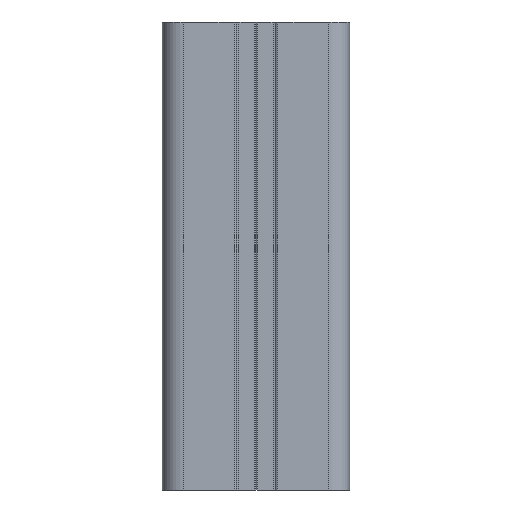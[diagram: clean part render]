
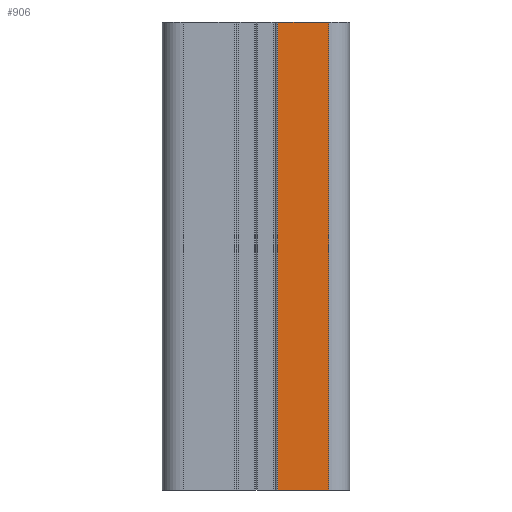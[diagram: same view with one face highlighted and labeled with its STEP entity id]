
A CAD part, front view. The second image highlights one B-rep face of the part: STEP entity #906.
In plain terms, the highlighted planar face has unit normal (0, -1, 0).
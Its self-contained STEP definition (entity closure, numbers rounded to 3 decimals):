
#17 = VERTEX_POINT ( 'NONE', #126 ) ;
#25 = CARTESIAN_POINT ( 'NONE',  ( 15.5, -20., 0. ) ) ;
#87 = PLANE ( 'NONE',  #4227 ) ;
#126 = CARTESIAN_POINT ( 'NONE',  ( 15.5, -20., -100. ) ) ;
#201 = ORIENTED_EDGE ( 'NONE', *, *, #2942, .T. ) ;
#289 = FACE_OUTER_BOUND ( 'NONE', #1575, .T. ) ;
#407 = VERTEX_POINT ( 'NONE', #25 ) ;
#472 = CARTESIAN_POINT ( 'NONE',  ( 20., -20., -100. ) ) ;
#623 = ORIENTED_EDGE ( 'NONE', *, *, #4682, .T. ) ;
#674 = VERTEX_POINT ( 'NONE', #3790 ) ;
#868 = DIRECTION ( 'NONE',  ( 0., -1., 0. ) ) ;
#884 = CARTESIAN_POINT ( 'NONE',  ( 4.65, -20., -100. ) ) ;
#906 = ADVANCED_FACE ( 'NONE', ( #289 ), #87, .T. ) ;
#1217 = EDGE_CURVE ( 'NONE', #17, #407, #3537, .T. ) ;
#1338 = DIRECTION ( 'NONE',  ( 0., 0., 1. ) ) ;
#1341 = LINE ( 'NONE', #1662, #3156 ) ;
#1443 = ORIENTED_EDGE ( 'NONE', *, *, #1217, .T. ) ;
#1483 = VERTEX_POINT ( 'NONE', #4020 ) ;
#1516 = EDGE_CURVE ( 'NONE', #674, #407, #1841, .T. ) ;
#1575 = EDGE_LOOP ( 'NONE', ( #2917, #623, #201, #1443 ) ) ;
#1662 = CARTESIAN_POINT ( 'NONE',  ( 20., -20., -100. ) ) ;
#1742 = VECTOR ( 'NONE', #4732, 1000. ) ;
#1830 = LINE ( 'NONE', #884, #2808 ) ;
#1841 = LINE ( 'NONE', #4368, #1742 ) ;
#2808 = VECTOR ( 'NONE', #3099, 1000. ) ;
#2917 = ORIENTED_EDGE ( 'NONE', *, *, #1516, .F. ) ;
#2942 = EDGE_CURVE ( 'NONE', #1483, #17, #1341, .T. ) ;
#3099 = DIRECTION ( 'NONE',  ( 0., 0., -1. ) ) ;
#3156 = VECTOR ( 'NONE', #4178, 1000. ) ;
#3351 = CARTESIAN_POINT ( 'NONE',  ( 15.5, -20., -100. ) ) ;
#3418 = VECTOR ( 'NONE', #1338, 1000. ) ;
#3436 = DIRECTION ( 'NONE',  ( 1., 0., 0. ) ) ;
#3537 = LINE ( 'NONE', #3351, #3418 ) ;
#3790 = CARTESIAN_POINT ( 'NONE',  ( 4.65, -20., 0. ) ) ;
#4020 = CARTESIAN_POINT ( 'NONE',  ( 4.65, -20., -100. ) ) ;
#4178 = DIRECTION ( 'NONE',  ( 1., 0., 0. ) ) ;
#4227 = AXIS2_PLACEMENT_3D ( 'NONE', #472, #868, #3436 ) ;
#4368 = CARTESIAN_POINT ( 'NONE',  ( 20., -20., 0. ) ) ;
#4682 = EDGE_CURVE ( 'NONE', #674, #1483, #1830, .T. ) ;
#4732 = DIRECTION ( 'NONE',  ( 1., 0., 0. ) ) ;
